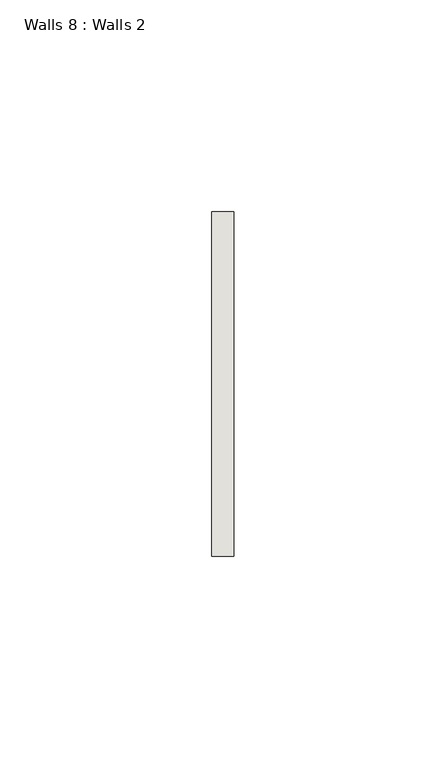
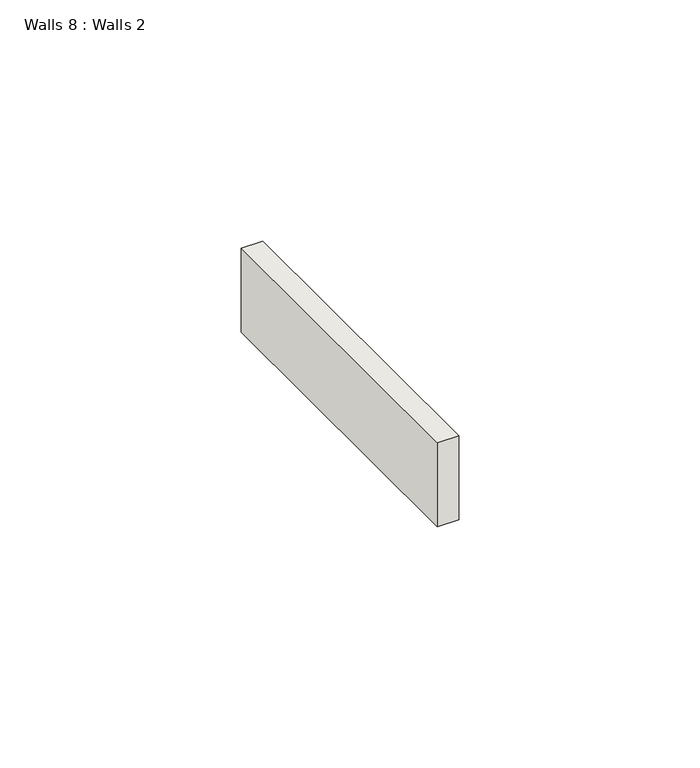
"""IFC4 building model written with IfcOpenShell, lengths in millimetres: wall geometry, Walls 8 : Walls 2."""

import ifcopenshell
import ifcopenshell.guid

model = None  # the IFC model being written
_history = None  # IfcOwnerHistory: only IFC2X3 demands one
_inside = {}  # id of a spatial element -> (the spatial element, [elements in it])
_under = {}  # id of a project, library or spatial element -> (it, [spatial elements below it])
_declared = {}  # id of a project -> (the project, [libraries it declares])
_typed = {}  # id of a type object -> (the type object, [elements of that type])
_made_of = {}  # id of a material, layer set ... -> (it, [elements and type objects made of it])


def new_model(schema):
    """Start an empty IFC model of exactly this schema.

    Asked for "IFC4X3", IfcOpenShell would pick the latest addendum, in which some entities
    have other attributes; the version numbers below select the first issue.
    IFC2X3 requires an IfcOwnerHistory on every rooted entity: one is made here for all.
    """
    global model, _history
    if schema == "IFC4X3":
        model = ifcopenshell.file(schema_version=(4, 3, 0, 0))
    else:
        model = ifcopenshell.file(schema=schema)
    _inside.clear()
    _under.clear()
    _declared.clear()
    _typed.clear()
    _made_of.clear()
    _history = None
    if model.schema == "IFC2X3":
        org = make("IfcOrganization", Name="unknown")
        user = make(
            "IfcPersonAndOrganization",
            ThePerson=make("IfcPerson", FamilyName="unknown"),
            TheOrganization=org,
        )
        app = make(
            "IfcApplication",
            ApplicationDeveloper=org,
            Version="unknown",
            ApplicationFullName="unknown",
            ApplicationIdentifier="unknown",
        )
        _history = make(
            "IfcOwnerHistory",
            OwningUser=user,
            OwningApplication=app,
            ChangeAction="ADDED",
            CreationDate=0,
        )
    return model


def make(cls, **values):
    """One entity of the class cls with the attributes given. An attribute that is None is left unset."""
    return model.create_entity(
        cls, **{name: value for name, value in values.items() if value is not None}
    )


def rooted(cls, **values):
    """An entity with a GlobalId (a new one), such as an element, a storey or a relation."""
    return make(cls, GlobalId=ifcopenshell.guid.new(), OwnerHistory=_history, **values)


def si_unit(unit_type, name, prefix=None):
    """IfcSIUnit, for example si_unit("LENGTHUNIT", "METRE", prefix="MILLI")."""
    return make("IfcSIUnit", UnitType=unit_type, Prefix=prefix, Name=name)


def assignment(units):
    """IfcUnitAssignment: the units of a project."""
    return None if units is None else make("IfcUnitAssignment", Units=units)


def point(xyz):
    """IfcCartesianPoint."""
    return None if xyz is None else make("IfcCartesianPoint", Coordinates=xyz)


def direction(xyz):
    """IfcDirection."""
    return None if xyz is None else make("IfcDirection", DirectionRatios=xyz)


def frame(location, z_axis=None, x_axis=None):
    """IfcAxis2Placement3D, a coordinate frame: its origin and axes. An axis left out is left unset."""
    return make(
        "IfcAxis2Placement3D",
        Location=point(location),
        Axis=direction(z_axis),
        RefDirection=direction(x_axis),
    )


def origin():
    """The frame at (0, 0, 0) with its axes left unset."""
    return frame((0.0, 0.0, 0.0))


def place(relative_to, where):
    """IfcLocalPlacement: puts the frame where relative to a parent placement (None: the world)."""
    return make(
        "IfcLocalPlacement", PlacementRelTo=relative_to, RelativePlacement=where
    )


def context(
    kind, dimensions, precision=None, world=None, true_north=None, identifier=None
):
    """IfcGeometricRepresentationContext, for example the 3D "Model" context."""
    return make(
        "IfcGeometricRepresentationContext",
        ContextIdentifier=identifier,
        ContextType=kind,
        CoordinateSpaceDimension=dimensions,
        Precision=precision,
        WorldCoordinateSystem=world,
        TrueNorth=true_north,
    )


def project(units=None, contexts=None):
    """IfcProject with its units and contexts."""
    return rooted(
        "IfcProject",
        Name="project",
        RepresentationContexts=contexts,
        UnitsInContext=assignment(units),
    )


def spatial(cls, under=None, at=None, **own):
    """A site, building, storey or space (cls), placed at a placement, below another one or the project."""
    s = rooted(cls, ObjectPlacement=at, **own)
    if under is not None:
        _under.setdefault(under.id(), (under, []))[1].append(s)
    return s


def polyline(points):
    """IfcPolyline through the points."""
    return make("IfcPolyline", Points=[point(p) for p in points])


def outline(outer, holes=None, kind="AREA"):
    """IfcArbitraryClosedProfileDef: a profile drawn as a closed curve; with holes, ...WithVoids."""
    if holes is None:
        return make("IfcArbitraryClosedProfileDef", ProfileType=kind, OuterCurve=outer)
    return make(
        "IfcArbitraryProfileDefWithVoids",
        ProfileType=kind,
        OuterCurve=outer,
        InnerCurves=holes,
    )


def extrude(swept, where, along, depth):
    """IfcExtrudedAreaSolid: the profile swept, set in the frame where, extruded along a direction by depth."""
    return make(
        "IfcExtrudedAreaSolid",
        SweptArea=swept,
        Position=where,
        ExtrudedDirection=direction(along),
        Depth=depth,
    )


def shape(context_of_items, identifier, shape_type, items):
    """IfcShapeRepresentation: the items that make up one representation, for example the "Body"."""
    return make(
        "IfcShapeRepresentation",
        ContextOfItems=context_of_items,
        RepresentationIdentifier=identifier,
        RepresentationType=shape_type,
        Items=items,
    )


def source(mapping_origin, context_of_items, identifier, shape_type, items):
    """IfcRepresentationMap: a shape defined once, which mapped items show again and again."""
    return make(
        "IfcRepresentationMap",
        MappingOrigin=mapping_origin,
        MappedRepresentation=shape(context_of_items, identifier, shape_type, items),
    )


def transform(
    local_origin,
    x_axis=None,
    y_axis=None,
    z_axis=None,
    scale=None,
    scale2=None,
    scale3=None,
    uniform=True,
):
    """IfcCartesianTransformationOperator3D, or its non-uniform kind. x_axis, y_axis, z_axis: its Axis1, 2, 3."""
    if uniform:
        return make(
            "IfcCartesianTransformationOperator3D",
            Axis1=direction(x_axis),
            Axis2=direction(y_axis),
            LocalOrigin=point(local_origin),
            Scale=scale,
            Axis3=direction(z_axis),
        )
    return make(
        "IfcCartesianTransformationOperator3DnonUniform",
        Axis1=direction(x_axis),
        Axis2=direction(y_axis),
        LocalOrigin=point(local_origin),
        Scale=scale,
        Axis3=direction(z_axis),
        Scale2=scale2,
        Scale3=scale3,
    )


def mapped(mapping_source, mapping_target):
    """IfcMappedItem: shows the shape of a source again, moved by a transform."""
    return make(
        "IfcMappedItem", MappingSource=mapping_source, MappingTarget=mapping_target
    )


def made_of(thing, what):
    """Note that an element or type object is made of a material, layer set ...; save() writes the relation."""
    if what is not None:
        _made_of.setdefault(what.id(), (what, []))[1].append(thing)
    return thing


def element(
    cls,
    number,
    at=None,
    inside=None,
    cuts=None,
    type_object=None,
    material=None,
    context=None,
    identifier="Body",
    shape_type=None,
    held_by="IfcProductDefinitionShape",
    body=None,
    shapes=None,
    **own,
):
    """One element of the class cls, such as IfcWall. Its Tag is "e" and its number.

    at: its placement. inside: the storey or other place that contains it. cuts: it is an
    opening in that element (IfcRelVoidsElement). A single representation is given by context,
    identifier, shape_type and body (its items); several are given by shapes. held_by: the class
    of the entity that holds the representations. save() writes the other relations.
    """
    e = rooted(cls, Tag="e%d" % number, ObjectPlacement=at, **own)
    if body is not None:
        shapes = [shape(context, identifier, shape_type, body)]
    if shapes is not None:
        e.Representation = make(held_by, Representations=shapes)
    if inside is not None:
        _inside.setdefault(inside.id(), (inside, []))[1].append(e)
    if cuts is not None:
        rooted(
            "IfcRelVoidsElement", RelatingBuildingElement=cuts, RelatedOpeningElement=e
        )
    if type_object is not None:
        _typed.setdefault(type_object.id(), (type_object, []))[1].append(e)
    return made_of(e, material)


def aggregate(whole, parts):
    """IfcRelAggregates: a whole, such as a stair, and the parts it consists of."""
    return rooted("IfcRelAggregates", RelatingObject=whole, RelatedObjects=parts)


def save(model, path):
    """Write the relations noted so far, then the file.

    IfcRelAggregates (storeys below a building ...), IfcRelContainedInSpatialStructure (elements
    in a storey), IfcRelDefinesByType, IfcRelAssociatesMaterial and IfcRelDeclares: one each for
    every whole, place, type object, material and project.
    """
    for whole, parts in _under.values():
        aggregate(whole, parts)
    for where, things in _inside.values():
        rooted(
            "IfcRelContainedInSpatialStructure",
            RelatedElements=things,
            RelatingStructure=where,
        )
    for kind, things in _typed.values():
        rooted("IfcRelDefinesByType", RelatedObjects=things, RelatingType=kind)
    for what, things in _made_of.values():
        rooted("IfcRelAssociatesMaterial", RelatedObjects=things, RelatingMaterial=what)
    for by, libraries in _declared.values():
        rooted("IfcRelDeclares", RelatingContext=by, RelatedDefinitions=libraries)
    model.write(path)


def walls_8_walls_2_45d84caa(model_context):
    return source(origin(), model_context, "Body", "SweptSolid", [
        extrude(outline(polyline([(5726.9888813, 7439.3751312), (5721.7957776, 7439.3751312), (5721.7957776, 7520.6090029), (5726.9888813, 7520.6090029), (5726.9888813, 7439.3751312)])), frame((0.0, 0.0, 1429.9123158), z_axis=(0.0, 0.0, 1.0), x_axis=(1.0, 0.0, 0.0)), (0.0, 0.0, 1.0), 21.2458692),
    ])


if __name__ == "__main__":
    model = new_model("IFC4")
    model_context = context("Model", 3, world=origin())
    ifc_project = project(units=[si_unit("LENGTHUNIT", "METRE", prefix="MILLI")], contexts=[model_context])
    site = spatial("IfcSite", under=ifc_project)
    building = spatial("IfcBuilding", under=site)
    placement = place(None, origin())
    walls_8_walls_2_shape = walls_8_walls_2_45d84caa(model_context)
    element("IfcWall", 1, ObjectType="Walls 8 : Walls 2", at=placement, inside=building, context=model_context, shape_type="MappedRepresentation", body=[
        mapped(walls_8_walls_2_shape, transform((0.0, 0.0, 0.0), x_axis=(1.0, 0.0, 0.0), y_axis=(0.0, 1.0, 0.0), z_axis=(0.0, 0.0, 1.0))),
    ])
    save(model, "model.ifc")
